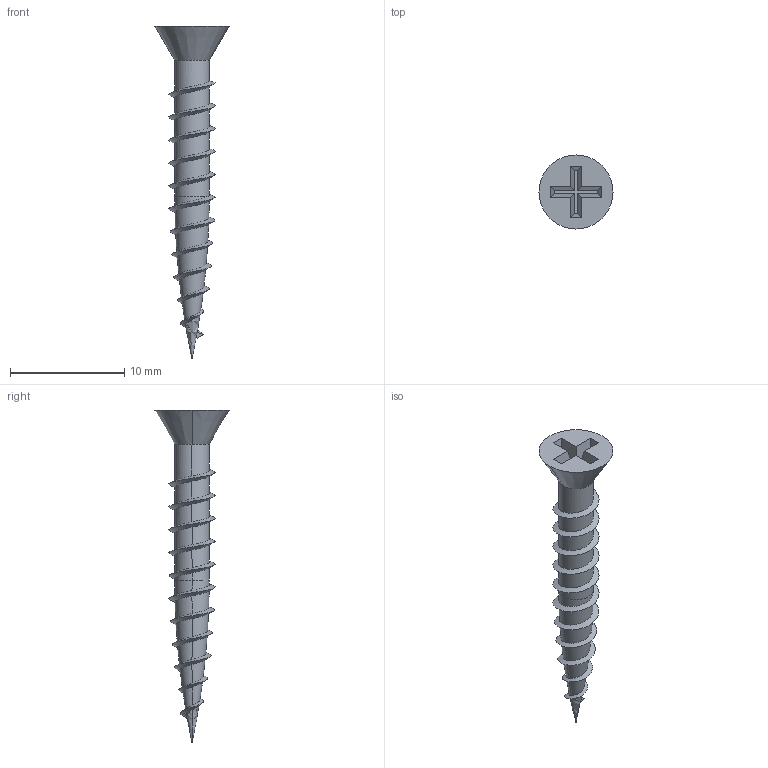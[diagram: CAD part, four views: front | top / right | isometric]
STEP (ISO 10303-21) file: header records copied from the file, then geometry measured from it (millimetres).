
FILE_DESCRIPTION (( 'STEP AP203' ), '1' );
FILE_NAME ('ChipBoard screw Cad.STEP', '2025-03-01T20:00:12', ( '' ), ( '' ), 'SwSTEP 2.0', 'SolidWorks 2024', '' );
FILE_SCHEMA (( 'CONFIG_CONTROL_DESIGN' ));
Length unit declared in the file: millimetre
Products named in the file (1): ChipBoard screw Cad
Bounding box: 6.46 x 6.46 x 29 mm (x, y, z)
Volume: 193.6 mm3; surface area: 392.5 mm2
Topology: 1 solids, 1 shells, 50 faces, 131 edges, 84 vertices
Faces by surface type: plane 17, torus 14, cylinder 12, cone 4, bspline 3
Entity records: 3416 total; most frequent: CARTESIAN_POINT 2192, ORIENTED_EDGE 262, DIRECTION 204, EDGE_CURVE 131, VERTEX_POINT 84, AXIS2_PLACEMENT_3D 73, LINE 58, VECTOR 58
